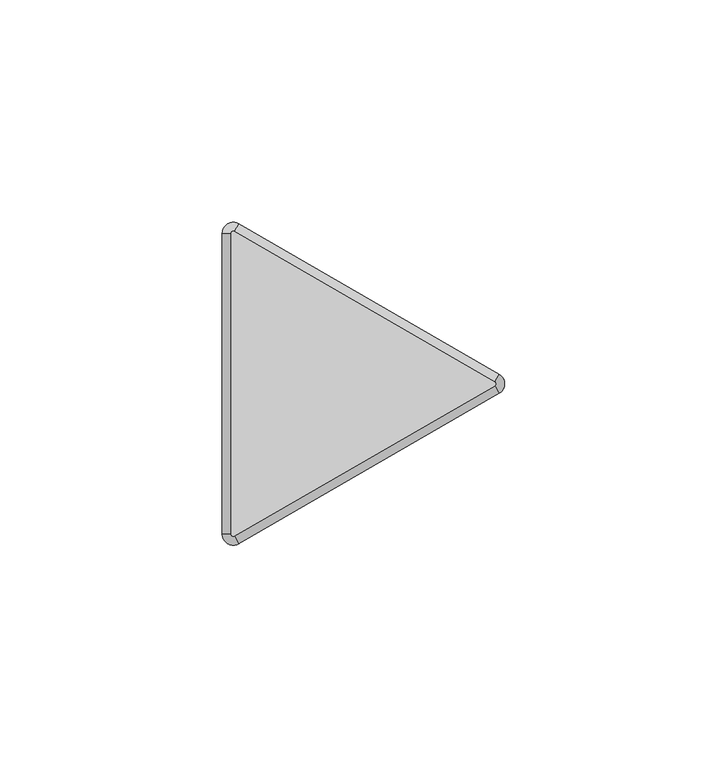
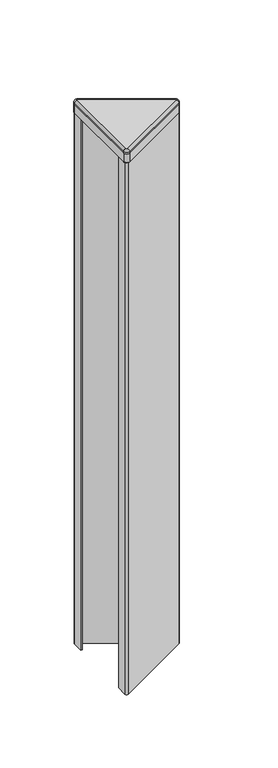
"""IFC4 building model written with IfcOpenShell, lengths in millimetres: furniture geometry, Steelcase - Answer Solution - Panel - 120deg Change-of-Height Trim - Thin : Y Corner - 18H for 84H App."""

from ifc_helpers import new_model, si_unit, point, frame, frame_2d, origin, place, context, project, spatial, polyline, circle_curve, ellipse_curve, trimmed, segment, composite_curve, outline, extrude, source, transform, mapped, element, save
from ifc_brep_helpers import plane_surface, cylinder_surface, revolved_surface, advanced_brep


def furniture_8218ad25(model_context):
    return source(origin(), model_context, "Body", "SolidModel", [
        advanced_brep(
        [(-10.518645, -37.3335529, 2138.0628978), (-14.2052101, -35.2051135, 2138.0628978), (-14.2052101, -35.2051135, 2137.1164663), (-10.518645, -37.3335529, 2137.1164663), (-11.46175, -35.7000471, 2139.95), (-12.319, -35.2051135, 2139.95), (-11.46175, -35.7000471, 2137.1164663), (-12.319, -35.2051135, 2137.1164663), (48.0429908, -3.5229767, 2137.1164663), (48.0429908, -3.5229767, 2138.0628978), (47.0998858, -1.8894709, 2139.95), (47.0998858, -1.8894709, 2137.1164663), (48.0429908, 0.733902, 2138.0628978), (48.0429908, 0.733902, 2137.1164663), (47.0998858, -0.8996038, 2139.95), (47.0998858, -0.8996038, 2137.1164663), (-10.518645, 34.5444782, 2137.1164663), (-14.2052101, 32.4160388, 2137.1164663), (-11.46175, 32.9109723, 2137.1164663), (-12.319, 32.4160388, 2137.1164663), (-10.518645, 34.5444782, 2138.0628978), (-11.46175, 32.9109723, 2139.95), (-14.2052101, 32.4160388, 2138.0628978), (-12.319, 32.4160388, 2139.95)],
        [
            (0, 1, circle_curve(frame((-11.7475, -35.2051135, 2138.0628978), z_axis=(0.0, 0.0, -1.0), x_axis=(-1.0, 0.0, 0.0)), 2.4577101)),
            (1, 2),
            (2, 3, circle_curve(frame((-11.7475, -35.2051135, 2137.1164663), z_axis=(0.0, 0.0, 1.0), x_axis=(-1.0, 0.0, 0.0)), 2.4577101)),
            (3, 0),
            (4, 5, circle_curve(frame((-11.7475, -35.2051135, 2139.95), z_axis=(0.0, 0.0, -1.0), x_axis=(-1.0, 0.0, 0.0)), 0.5715)),
            (5, 1, circle_curve(frame((-12.3181076, -35.2051135, 2138.0628978), z_axis=(0.0, -1.0, 0.0), x_axis=(1.0, 0.0, 0.0)), 1.8871024)),
            (0, 4, circle_curve(frame((-11.4621962, -35.6992743, 2138.0628978), z_axis=(-0.8660254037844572, -0.49999999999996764, 0.0), x_axis=(-0.49999999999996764, 0.8660254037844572, 0.0)), 1.8871024)),
            (6, 7, circle_curve(frame((-11.7475, -35.2051135, 2137.1164663), z_axis=(0.0, 0.0, -1.0), x_axis=(-1.0, 0.0, 0.0)), 0.5715)),
            (7, 5),
            (4, 6),
            (3, 8),
            (8, 9),
            (9, 0),
            (9, 10, circle_curve(frame((47.0994396, -1.8886981, 2138.0628978), z_axis=(-0.8660254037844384, -0.5000000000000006, 0.0), x_axis=(-0.5000000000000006, 0.8660254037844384, 0.0)), 1.8871024)),
            (10, 4),
            (10, 11),
            (11, 6),
            (12, 9, circle_curve(frame((46.8141358, -1.3945374, 2138.0628978), z_axis=(0.0, 0.0, -1.0), x_axis=(0.4999999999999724, -0.8660254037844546, 0.0)), 2.4577101)),
            (8, 13, circle_curve(frame((46.8141358, -1.3945374, 2137.1164663), z_axis=(0.0, 0.0, 1.0), x_axis=(0.4999999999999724, -0.8660254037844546, 0.0)), 2.4577101)),
            (13, 12),
            (14, 10, circle_curve(frame((46.8141358, -1.3945374, 2139.95), z_axis=(0.0, 0.0, -1.0), x_axis=(0.4999999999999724, -0.8660254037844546, 0.0)), 0.5715)),
            (12, 14, circle_curve(frame((47.0994396, -0.9003766, 2138.0628978), z_axis=(0.8660254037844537, -0.49999999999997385, 0.0), x_axis=(-0.49999999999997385, -0.8660254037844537, 0.0)), 1.8871024)),
            (15, 11, circle_curve(frame((46.8141358, -1.3945374, 2137.1164663), z_axis=(0.0, 0.0, -1.0), x_axis=(0.4999999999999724, -0.8660254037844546, 0.0)), 0.5715)),
            (14, 15),
            (16, 13),
            (2, 17),
            (17, 16, circle_curve(frame((-11.7475, 32.4160388, 2137.1164663), z_axis=(0.0, 0.0, -1.0), x_axis=(0.500000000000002, 0.8660254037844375, 0.0)), 2.4577101)),
            (15, 18),
            (18, 19, circle_curve(frame((-11.7475, 32.4160388, 2137.1164663), z_axis=(0.0, 0.0, 1.0), x_axis=(0.500000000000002, 0.8660254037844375, 0.0)), 0.5715)),
            (19, 7),
            (16, 20),
            (20, 12),
            (20, 21, circle_curve(frame((-11.4621962, 32.9101995, 2138.0628978), z_axis=(0.8660254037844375, -0.5000000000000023, 0.0), x_axis=(-0.5000000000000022, -0.8660254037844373, 0.0)), 1.8871024)),
            (21, 14),
            (21, 18),
            (22, 20, circle_curve(frame((-11.7475, 32.4160388, 2138.0628978), z_axis=(0.0, 0.0, -1.0), x_axis=(0.500000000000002, 0.8660254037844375, 0.0)), 2.4577101)),
            (17, 22),
            (23, 21, circle_curve(frame((-11.7475, 32.4160388, 2139.95), z_axis=(0.0, 0.0, -1.0), x_axis=(0.500000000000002, 0.8660254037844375, 0.0)), 0.5715)),
            (22, 23, circle_curve(frame((-12.3181076, 32.4160388, 2138.0628978), z_axis=(0.0, 1.0, 0.0), x_axis=(1.0, 0.0, 0.0)), 1.8871024)),
            (23, 19),
            (1, 22),
            (5, 23),
        ],
        [
            cylinder_surface(frame((-11.7475, -35.2051135, 0.0), z_axis=(0.0, 0.0, 1.0), x_axis=(-1.0, 0.0, 0.0)), 2.4577101),
            revolved_surface(trimmed(ellipse_curve(frame((-12.3181076, -35.2051135, 2138.0628978), z_axis=(0.0, 1.0, 0.0), x_axis=(1.0, 0.0, 0.0)), 1.8871024, 1.8871024), [point((-14.2052101, -35.2051135, 2138.0628978))], [point((-12.319, -35.2051135, 2139.95))], True, "CARTESIAN"), (-11.7475, -35.2051135, 0.0), (0.0, 0.0, 1.0)),
            revolved_surface(polyline([(-12.319, -35.2051135, 2139.95), (-12.319, -35.2051135, 2137.1164663)]), (-11.7475, -35.2051135, 0.0), (0.0, 0.0, 1.0)),
            plane_surface(frame((-10.518645, -37.3335529, 2137.1164663), z_axis=(0.49999999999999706, -0.8660254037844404, 0.0), x_axis=(0.8660254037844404, 0.49999999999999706, 0.0))),
            cylinder_surface(frame((-11.4621962, -35.6992743, 2138.0628978), z_axis=(-0.8660254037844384, -0.5000000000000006, 0.0), x_axis=(-0.5000000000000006, 0.8660254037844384, 0.0)), 1.8871024),
            plane_surface(frame((-11.46175, -35.7000471, 2139.95), z_axis=(-0.500000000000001, 0.8660254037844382, 0.0), x_axis=(0.8660254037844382, 0.500000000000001, 0.0))),
            cylinder_surface(frame((46.8141358, -1.3945374, 0.0), z_axis=(0.0, 0.0, 1.0), x_axis=(0.4999999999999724, -0.8660254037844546, 0.0)), 2.4577101),
            revolved_surface(trimmed(ellipse_curve(frame((47.0994396, -1.8886981, 2138.0628978), z_axis=(-0.8660254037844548, -0.499999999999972, 0.0), x_axis=(-0.499999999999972, 0.8660254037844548, 0.0)), 1.8871024, 1.8871024), [point((48.0429908, -3.5229767, 2138.0628978))], [point((47.0998858, -1.8894709, 2139.95))], True, "CARTESIAN"), (46.8141358, -1.3945374, 0.0), (0.0, 0.0, 1.0)),
            revolved_surface(polyline([(47.09988579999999, -1.8894709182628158, 2139.95), (47.09988579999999, -1.8894709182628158, 2137.1164663)]), (46.8141358, -1.3945374, 0.0), (0.0, 0.0, 1.0)),
            plane_surface(frame((47.0998858, -0.8996038, 2137.1164663), z_axis=(0.0, 0.0, -1.0), x_axis=(-0.8660254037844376, 0.5000000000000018, 0.0))),
            plane_surface(frame((48.0429908, 0.733902, 2137.1164663), z_axis=(0.49999999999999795, 0.8660254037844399, 0.0), x_axis=(-0.8660254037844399, 0.49999999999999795, 0.0))),
            cylinder_surface(frame((47.0994396, -0.9003766, 2138.0628978), z_axis=(0.8660254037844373, -0.5000000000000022, 0.0), x_axis=(-0.5000000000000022, -0.8660254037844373, 0.0)), 1.8871024),
            plane_surface(frame((47.0998858, -0.8996038, 2139.95), z_axis=(-0.5000000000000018, -0.8660254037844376, 0.0), x_axis=(-0.8660254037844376, 0.5000000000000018, 0.0))),
            cylinder_surface(frame((-11.7475, 32.4160388, 0.0), z_axis=(0.0, 0.0, 1.0), x_axis=(0.500000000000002, 0.8660254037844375, 0.0)), 2.4577101),
            revolved_surface(trimmed(ellipse_curve(frame((-11.4621962, 32.9101995, 2138.0628978), z_axis=(0.866025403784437, -0.5000000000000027, 0.0), x_axis=(-0.5000000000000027, -0.866025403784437, 0.0)), 1.8871024, 1.8871024), [point((-10.518645, 34.5444782, 2138.0628978))], [point((-11.46175, 32.9109723, 2139.95))], True, "CARTESIAN"), (-11.7475, 32.4160388, 0.0), (0.0, 0.0, 1.0)),
            revolved_surface(polyline([(-11.461749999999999, 32.91097231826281, 2139.95), (-11.461749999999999, 32.91097231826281, 2137.1164663)]), (-11.7475, 32.4160388, 0.0), (0.0, 0.0, 1.0)),
            plane_surface(frame((-14.2052101, 32.4160388, 2137.1164663), z_axis=(-1.0, 0.0, 0.0), x_axis=(0.0, -1.0, 0.0))),
            cylinder_surface(frame((-12.3181076, 32.4160388, 2138.0628978), z_axis=(0.0, 1.0, 0.0), x_axis=(1.0, 0.0, 0.0)), 1.8871024),
            plane_surface(frame((-12.319, 32.4160388, 2139.95), z_axis=(1.0, 0.0, 0.0), x_axis=(0.0, -1.0, 0.0))),
        ],
        [
            (0, [[1, 2, 3, 4]]),
            (1, [[5, 6, -1, 7]]),
            (2, [[8, 9, -5, 10]]),
            (3, [[-4, 11, 12, 13]]),
            (4, [[-7, -13, 14, 15]]),
            (5, [[-10, -15, 16, 17]]),
            (6, [[18, -12, 19, 20]]),
            (7, [[21, -14, -18, 22]]),
            (8, [[23, -16, -21, 24]]),
            (9, [[25, -19, -11, -3, 26, 27], [-8, -17, -23, 28, 29, 30]]),
            (10, [[-20, -25, 31, 32]]),
            (11, [[-22, -32, 33, 34]]),
            (12, [[-24, -34, 35, -28]]),
            (13, [[36, -31, -27, 37]]),
            (14, [[38, -33, -36, 39]]),
            (15, [[-29, -35, -38, 40]]),
            (16, [[-37, -26, -2, 41]]),
            (17, [[-39, -41, -6, 42]]),
            (18, [[-40, -42, -9, -30]]),
        ],
    ),
        extrude(outline(composite_curve([segment(trimmed(circle_curve(frame_2d((47.9522001, -1.3945374)), 1.2978651), [point((48.6011327, -0.2705532))], [point((48.6011327, -2.5185215))], False, "CARTESIAN"), True, "CONTINUOUS"), segment(polyline([(48.6011327, -2.5185215), (-11.6879343, -37.3264306)]), True, "CONTINUOUS"), segment(trimmed(circle_curve(frame_2d((-12.3300896, -36.2141852)), 1.2843104), [point((-11.6879343, -37.3264306))], [point((-13.6144, -36.2141852))], False, "CARTESIAN"), True, "CONTINUOUS"), segment(polyline([(-13.6144, -36.2141852), (-13.6144, -27.3303775), (-12.7, -27.3303775), (-12.7, -36.8548888), (48.7191304, -1.3945374), (-12.7, 34.0658141), (-12.7, 24.5413027), (-13.6144, 24.5413027), (-13.6144, 33.4106259)]), True, "CONTINUOUS"), segment(trimmed(circle_curve(frame_2d((-12.3217269, 33.4106259)), 1.2926731), [point((-13.6144, 33.4106259))], [point((-11.6753904, 34.5301136))], False, "CARTESIAN"), True, "CONTINUOUS"), segment(polyline([(-11.6753904, 34.5301136), (48.6011327, -0.2705532)]), True, "CONTINUOUS")], self_intersect=False)), frame((0.0, 0.0, 1682.75), z_axis=(0.0, 0.0, 1.0), x_axis=(1.0, 0.0, 0.0)), (0.0, 0.0, 1.0), 447.04),
        extrude(outline(composite_curve([segment(trimmed(circle_curve(frame_2d((46.8261011, -1.3945374)), 0.5655173), [point((47.1088598, -0.904785))], [point((47.1088598, -1.8842897))], False, "CARTESIAN"), True, "CONTINUOUS"), segment(polyline([(47.1088598, -1.8842897), (-11.4505119, -35.6935587)]), True, "CONTINUOUS"), segment(trimmed(circle_curve(frame_2d((-11.7400079, -35.1921369)), 0.5789921), [point((-11.4505119, -35.6935587))], [point((-12.319, -35.1921369))], False, "CARTESIAN"), True, "CONTINUOUS"), segment(polyline([(-12.319, -35.1921369), (-12.319, 32.3985888)]), True, "CONTINUOUS"), segment(trimmed(circle_curve(frame_2d((-11.7374252, 32.3985888)), 0.5815748), [point((-12.319, 32.3985888))], [point((-11.4466378, 32.9022473))], False, "CARTESIAN"), True, "CONTINUOUS"), segment(polyline([(-11.4466378, 32.9022473), (47.1088598, -0.904785)]), True, "CONTINUOUS")], self_intersect=False)), frame((0.0, 0.0, 2137.1164663), z_axis=(0.0, 0.0, 1.0), x_axis=(1.0, 0.0, 0.0)), (0.0, 0.0, 1.0), 2.8335337),
        extrude(outline(composite_curve([segment(trimmed(circle_curve(frame_2d((46.8140443, -1.3945374)), 2.4577558), [point((48.0429222, 0.7339416))], [point((48.0429222, -3.5230163))], False, "CARTESIAN"), True, "CONTINUOUS"), segment(polyline([(48.0429222, -3.5230163), (-10.518058, -37.333214)]), True, "CONTINUOUS"), segment(trimmed(circle_curve(frame_2d((-11.7471087, -35.2044357)), 2.4581014), [point((-10.518058, -37.333214))], [point((-14.2052101, -35.2044357))], False, "CARTESIAN"), True, "CONTINUOUS"), segment(polyline([(-14.2052101, -35.2044357), (-14.2052101, 32.4160388)]), True, "CONTINUOUS"), segment(trimmed(circle_curve(frame_2d((-11.7475, 32.4160388)), 2.4577101), [point((-14.2052101, 32.4160388))], [point((-10.518645, 34.5444782))], False, "CARTESIAN"), True, "CONTINUOUS"), segment(polyline([(-10.518645, 34.5444782), (48.0429222, 0.7339416)]), True, "CONTINUOUS")], self_intersect=False)), frame((0.0, 0.0, 2129.79), z_axis=(0.0, 0.0, 1.0), x_axis=(1.0, 0.0, 0.0)), (0.0, 0.0, 1.0), 7.3264663),
    ])


if __name__ == "__main__":
    model = new_model("IFC4")
    model_context = context("Model", 3, world=origin())
    ifc_project = project(units=[si_unit("LENGTHUNIT", "METRE", prefix="MILLI")], contexts=[model_context])
    site = spatial("IfcSite", under=ifc_project)
    building = spatial("IfcBuilding", under=site)
    placement = place(None, origin())
    furniture_shape = furniture_8218ad25(model_context)
    element("IfcFurniture", 1, ObjectType="Steelcase - Answer Solution - Panel - 120deg Change-of-Height Trim - Thin : Y Corner - 18H for 84H App", at=placement, inside=building, context=model_context, shape_type="MappedRepresentation", body=[
        mapped(furniture_shape, transform((0.0, 0.0, 0.0), x_axis=(1.0, 0.0, 0.0), y_axis=(0.0, 1.0, 0.0), z_axis=(0.0, 0.0, 1.0))),
    ])
    save(model, "model.ifc")
